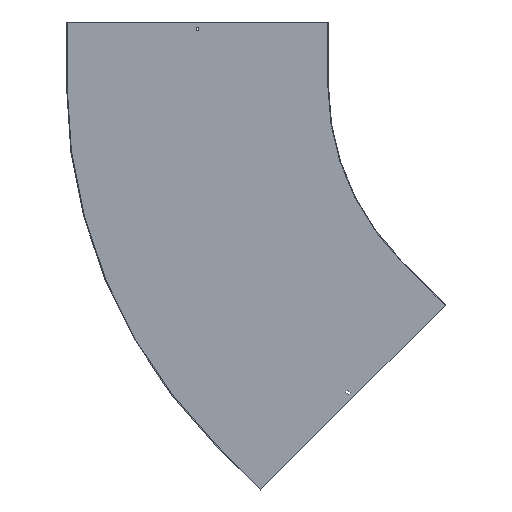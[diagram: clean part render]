
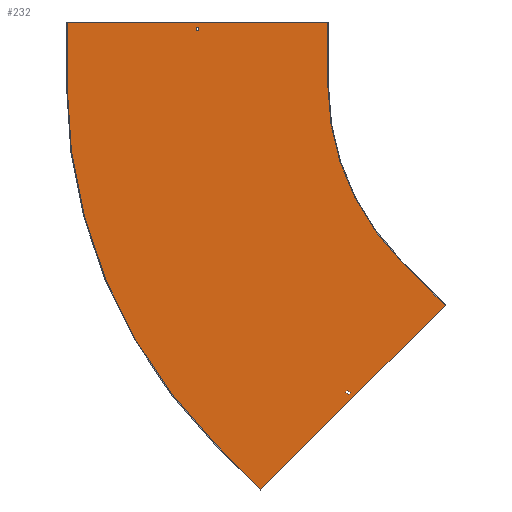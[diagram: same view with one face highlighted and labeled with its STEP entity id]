
A CAD part, front view. The second image highlights one B-rep face of the part: STEP entity #232.
In plain terms, the highlighted planar face has unit normal (0, -1, 0).
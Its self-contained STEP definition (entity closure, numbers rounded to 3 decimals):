
#4 = DIRECTION ( 'NONE',  ( -0.707, 0., 0.707 ) ) ;
#8 = CIRCLE ( 'NONE', #168, 590. ) ;
#15 = ORIENTED_EDGE ( 'NONE', *, *, #816, .F. ) ;
#16 = EDGE_CURVE ( 'NONE', #666, #307, #152, .T. ) ;
#23 = LINE ( 'NONE', #769, #402 ) ;
#27 = LINE ( 'NONE', #759, #598 ) ;
#28 = CARTESIAN_POINT ( 'NONE',  ( -541.113, -1.5, -736.275 ) ) ;
#31 = DIRECTION ( 'NONE',  ( -0.707, 0., -0.707 ) ) ;
#36 = EDGE_CURVE ( 'NONE', #191, #812, #386, .T. ) ;
#46 = LINE ( 'NONE', #455, #85 ) ;
#48 = AXIS2_PLACEMENT_3D ( 'NONE', #154, #763, #157 ) ;
#57 = ORIENTED_EDGE ( 'NONE', *, *, #738, .F. ) ;
#58 = LINE ( 'NONE', #507, #216 ) ;
#66 = VECTOR ( 'NONE', #220, 1000. ) ;
#75 = VECTOR ( 'NONE', #4, 1000. ) ;
#78 = LINE ( 'NONE', #814, #348 ) ;
#79 = EDGE_LOOP ( 'NONE', ( #539, #813, #475, #611 ) ) ;
#84 = PLANE ( 'NONE',  #48 ) ;
#85 = VECTOR ( 'NONE', #31, 1000. ) ;
#96 = EDGE_CURVE ( 'NONE', #324, #552, #58, .T. ) ;
#110 = DIRECTION ( 'NONE',  ( 0., 0., -1. ) ) ;
#116 = ORIENTED_EDGE ( 'NONE', *, *, #758, .F. ) ;
#129 = EDGE_CURVE ( 'NONE', #812, #324, #261, .T. ) ;
#152 = LINE ( 'NONE', #768, #860 ) ;
#154 = CARTESIAN_POINT ( 'NONE',  ( 0., -1.5, 0. ) ) ;
#157 = DIRECTION ( 'NONE',  ( 0., 0., -1. ) ) ;
#163 = EDGE_CURVE ( 'NONE', #636, #535, #728, .T. ) ;
#168 = AXIS2_PLACEMENT_3D ( 'NONE', #840, #499, #110 ) ;
#177 = LINE ( 'NONE', #188, #184 ) ;
#180 = CARTESIAN_POINT ( 'NONE',  ( 0., -1.5, 138. ) ) ;
#182 = DIRECTION ( 'NONE',  ( 1., 0., 0. ) ) ;
#183 = CARTESIAN_POINT ( 'NONE',  ( -903.25, -1.5, 129. ) ) ;
#184 = VECTOR ( 'NONE', #839, 1000. ) ;
#188 = CARTESIAN_POINT ( 'NONE',  ( -417.193, -1.5, -417.193 ) ) ;
#191 = VERTEX_POINT ( 'NONE', #183 ) ;
#196 = VERTEX_POINT ( 'NONE', #334 ) ;
#216 = VECTOR ( 'NONE', #330, 1000. ) ;
#220 = DIRECTION ( 'NONE',  ( 0., 0., 1. ) ) ;
#227 = VECTOR ( 'NONE', #182, 1000. ) ;
#230 = CARTESIAN_POINT ( 'NONE',  ( -547.477, -1.5, -729.911 ) ) ;
#232 = ADVANCED_FACE ( 'NONE', ( #832, #297, #491 ), #84, .T. ) ;
#238 = CARTESIAN_POINT ( 'NONE',  ( -903.25, -1.5, 0. ) ) ;
#251 = LINE ( 'NONE', #328, #227 ) ;
#261 = LINE ( 'NONE', #180, #294 ) ;
#272 = ORIENTED_EDGE ( 'NONE', *, *, #654, .F. ) ;
#275 = VERTEX_POINT ( 'NONE', #423 ) ;
#284 = VERTEX_POINT ( 'NONE', #293 ) ;
#293 = CARTESIAN_POINT ( 'NONE',  ( -855.599, -1.5, -855.599 ) ) ;
#294 = VECTOR ( 'NONE', #523, 1000. ) ;
#297 = FACE_OUTER_BOUND ( 'NONE', #859, .T. ) ;
#307 = VERTEX_POINT ( 'NONE', #28 ) ;
#324 = VERTEX_POINT ( 'NONE', #829 ) ;
#328 = CARTESIAN_POINT ( 'NONE',  ( -1211.5, -1.5, 150. ) ) ;
#330 = DIRECTION ( 'NONE',  ( 0., 0., -1. ) ) ;
#334 = CARTESIAN_POINT ( 'NONE',  ( -590., -1.5, 150. ) ) ;
#340 = CARTESIAN_POINT ( 'NONE',  ( -896.75, -1.5, 129. ) ) ;
#348 = VECTOR ( 'NONE', #748, 1000. ) ;
#356 = CARTESIAN_POINT ( 'NONE',  ( -749.533, -1.5, -961.665 ) ) ;
#357 = EDGE_CURVE ( 'NONE', #805, #196, #251, .T. ) ;
#362 = AXIS2_PLACEMENT_3D ( 'NONE', #443, #503, #508 ) ;
#368 = DIRECTION ( 'NONE',  ( 0.707, 0., -0.707 ) ) ;
#378 = LINE ( 'NONE', #847, #506 ) ;
#382 = CARTESIAN_POINT ( 'NONE',  ( -1210., -1.5, 150. ) ) ;
#385 = EDGE_CURVE ( 'NONE', #465, #583, #177, .T. ) ;
#386 = LINE ( 'NONE', #238, #474 ) ;
#396 = DIRECTION ( 'NONE',  ( 0., 0., 1. ) ) ;
#402 = VECTOR ( 'NONE', #489, 1000. ) ;
#404 = ORIENTED_EDGE ( 'NONE', *, *, #357, .F. ) ;
#412 = CIRCLE ( 'NONE', #362, 1210. ) ;
#417 = CARTESIAN_POINT ( 'NONE',  ( -536.517, -1.5, -731.679 ) ) ;
#423 = CARTESIAN_POINT ( 'NONE',  ( -1210., -1.5, 0. ) ) ;
#443 = CARTESIAN_POINT ( 'NONE',  ( 0., -1.5, 0. ) ) ;
#455 = CARTESIAN_POINT ( 'NONE',  ( -310.066, -1.5, -522.198 ) ) ;
#461 = VECTOR ( 'NONE', #652, 1000. ) ;
#465 = VERTEX_POINT ( 'NONE', #862 ) ;
#470 = ORIENTED_EDGE ( 'NONE', *, *, #163, .F. ) ;
#471 = EDGE_CURVE ( 'NONE', #604, #284, #533, .T. ) ;
#474 = VECTOR ( 'NONE', #396, 1000. ) ;
#475 = ORIENTED_EDGE ( 'NONE', *, *, #509, .T. ) ;
#486 = DIRECTION ( 'NONE',  ( 0., 0., -1. ) ) ;
#489 = DIRECTION ( 'NONE',  ( -0.707, 0., -0.707 ) ) ;
#490 = VERTEX_POINT ( 'NONE', #680 ) ;
#491 = FACE_BOUND ( 'NONE', #79, .T. ) ;
#499 = DIRECTION ( 'NONE',  ( 0., -1., 0. ) ) ;
#503 = DIRECTION ( 'NONE',  ( 0., 1., 0. ) ) ;
#506 = VECTOR ( 'NONE', #632, 1000. ) ;
#507 = CARTESIAN_POINT ( 'NONE',  ( -896.75, -1.5, 0. ) ) ;
#508 = DIRECTION ( 'NONE',  ( 0., 0., -1. ) ) ;
#509 = EDGE_CURVE ( 'NONE', #552, #191, #78, .T. ) ;
#512 = CARTESIAN_POINT ( 'NONE',  ( -634.098, -1.5, -634.098 ) ) ;
#523 = DIRECTION ( 'NONE',  ( 1., 0., 0. ) ) ;
#525 = ORIENTED_EDGE ( 'NONE', *, *, #626, .F. ) ;
#533 = LINE ( 'NONE', #744, #75 ) ;
#535 = VERTEX_POINT ( 'NONE', #661 ) ;
#539 = ORIENTED_EDGE ( 'NONE', *, *, #129, .T. ) ;
#552 = VERTEX_POINT ( 'NONE', #340 ) ;
#554 = LINE ( 'NONE', #693, #66 ) ;
#583 = VERTEX_POINT ( 'NONE', #622 ) ;
#598 = VECTOR ( 'NONE', #486, 1000. ) ;
#604 = VERTEX_POINT ( 'NONE', #356 ) ;
#605 = EDGE_CURVE ( 'NONE', #535, #666, #23, .T. ) ;
#611 = ORIENTED_EDGE ( 'NONE', *, *, #36, .T. ) ;
#622 = CARTESIAN_POINT ( 'NONE',  ( -311.127, -1.5, -523.259 ) ) ;
#626 = EDGE_CURVE ( 'NONE', #196, #490, #27, .T. ) ;
#632 = DIRECTION ( 'NONE',  ( 0.707, 0., 0.707 ) ) ;
#636 = VERTEX_POINT ( 'NONE', #417 ) ;
#644 = ORIENTED_EDGE ( 'NONE', *, *, #471, .F. ) ;
#652 = DIRECTION ( 'NONE',  ( -0.707, 0., 0.707 ) ) ;
#654 = EDGE_CURVE ( 'NONE', #275, #805, #554, .T. ) ;
#661 = CARTESIAN_POINT ( 'NONE',  ( -542.881, -1.5, -725.315 ) ) ;
#666 = VERTEX_POINT ( 'NONE', #230 ) ;
#674 = ORIENTED_EDGE ( 'NONE', *, *, #16, .F. ) ;
#680 = CARTESIAN_POINT ( 'NONE',  ( -590., -1.5, 0. ) ) ;
#693 = CARTESIAN_POINT ( 'NONE',  ( -1210., -1.5, 0. ) ) ;
#718 = EDGE_LOOP ( 'NONE', ( #470, #116, #674, #747 ) ) ;
#728 = LINE ( 'NONE', #512, #461 ) ;
#733 = ORIENTED_EDGE ( 'NONE', *, *, #385, .F. ) ;
#738 = EDGE_CURVE ( 'NONE', #490, #465, #8, .T. ) ;
#744 = CARTESIAN_POINT ( 'NONE',  ( -749.533, -1.5, -961.665 ) ) ;
#747 = ORIENTED_EDGE ( 'NONE', *, *, #605, .F. ) ;
#748 = DIRECTION ( 'NONE',  ( -1., 0., 0. ) ) ;
#758 = EDGE_CURVE ( 'NONE', #307, #636, #378, .T. ) ;
#759 = CARTESIAN_POINT ( 'NONE',  ( -590., -1.5, 150. ) ) ;
#763 = DIRECTION ( 'NONE',  ( 0., -1., 0. ) ) ;
#764 = EDGE_CURVE ( 'NONE', #284, #275, #412, .T. ) ;
#768 = CARTESIAN_POINT ( 'NONE',  ( -638.694, -1.5, -638.694 ) ) ;
#769 = CARTESIAN_POINT ( 'NONE',  ( 91.217, -1.5, -91.217 ) ) ;
#783 = ORIENTED_EDGE ( 'NONE', *, *, #764, .F. ) ;
#785 = CARTESIAN_POINT ( 'NONE',  ( -903.25, -1.5, 138. ) ) ;
#805 = VERTEX_POINT ( 'NONE', #382 ) ;
#812 = VERTEX_POINT ( 'NONE', #785 ) ;
#813 = ORIENTED_EDGE ( 'NONE', *, *, #96, .T. ) ;
#814 = CARTESIAN_POINT ( 'NONE',  ( 0., -1.5, 129. ) ) ;
#816 = EDGE_CURVE ( 'NONE', #583, #604, #46, .T. ) ;
#829 = CARTESIAN_POINT ( 'NONE',  ( -896.75, -1.5, 138. ) ) ;
#832 = FACE_BOUND ( 'NONE', #718, .T. ) ;
#839 = DIRECTION ( 'NONE',  ( 0.707, 0., -0.707 ) ) ;
#840 = CARTESIAN_POINT ( 'NONE',  ( 0., -1.5, 0. ) ) ;
#847 = CARTESIAN_POINT ( 'NONE',  ( 97.581, -1.5, -97.581 ) ) ;
#859 = EDGE_LOOP ( 'NONE', ( #404, #272, #783, #644, #15, #733, #57, #525 ) ) ;
#860 = VECTOR ( 'NONE', #368, 1000. ) ;
#862 = CARTESIAN_POINT ( 'NONE',  ( -417.193, -1.5, -417.193 ) ) ;
